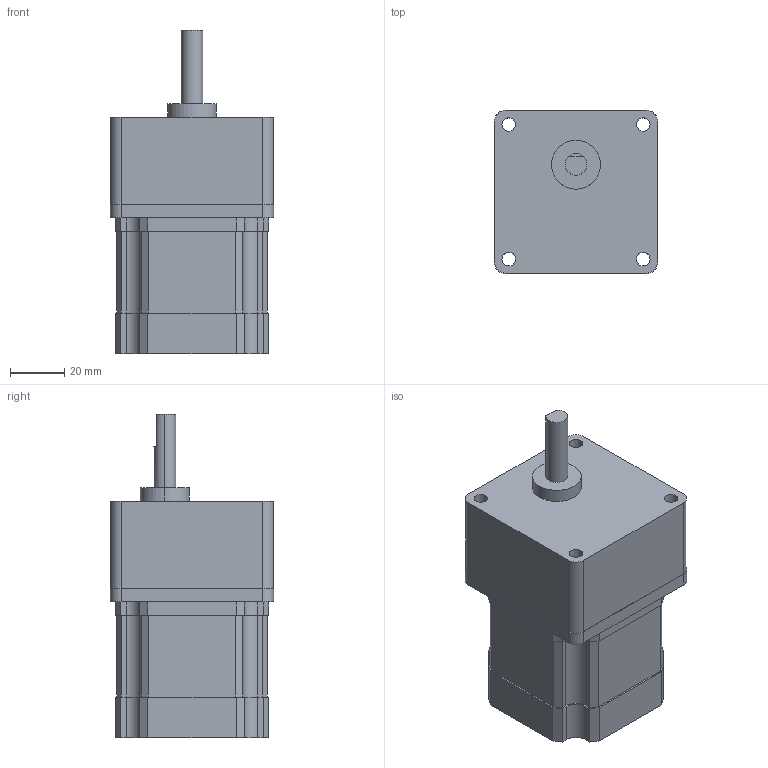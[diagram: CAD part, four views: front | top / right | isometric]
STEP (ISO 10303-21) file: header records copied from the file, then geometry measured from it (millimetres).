
FILE_DESCRIPTION (( 'STEP AP214' ), '1' );
FILE_NAME ('EXMK266-02GA-10K.STEP', '2016-09-09T03:54:22', ( 'hoho' ), ( '' ), 'SwSTEP 2.0', 'SolidWorks 2013', '' );
FILE_SCHEMA (( 'AUTOMOTIVE_DESIGN' ));
Length unit declared in the file: millimetre
Products named in the file (1): EXMK266-02GA-10K
Bounding box: 60 x 60 x 119 mm (x, y, z)
Volume: 271264.9 mm3; surface area: 29286.2 mm2
Topology: 1 solids, 1 shells, 110 faces, 306 edges, 204 vertices
Faces by surface type: plane 78, cylinder 32
Entity records: 3929 total; most frequent: CARTESIAN_POINT 621, ORIENTED_EDGE 612, DIRECTION 594, EDGE_CURVE 306, VECTOR 240, LINE 240, VERTEX_POINT 204, AXIS2_PLACEMENT_3D 177
